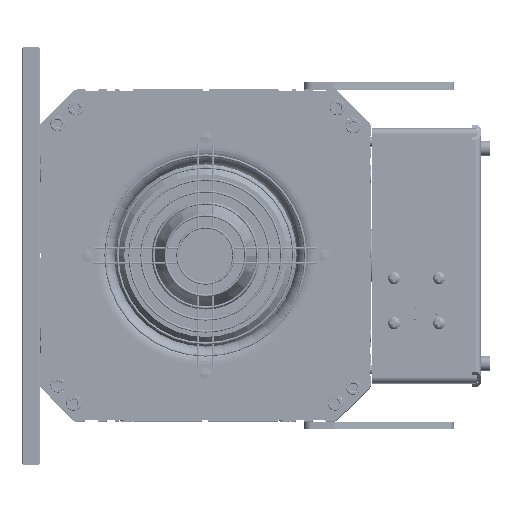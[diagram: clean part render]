
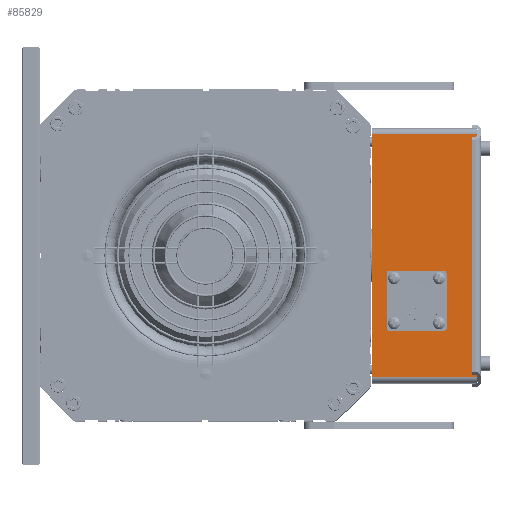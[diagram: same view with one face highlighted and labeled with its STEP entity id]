
A CAD part, top view. The second image highlights one B-rep face of the part: STEP entity #85829.
In plain terms, the highlighted planar face has unit normal (0, 0, 1) as drawn and (-1, 0, 0) by its records, which use the part's own axes.
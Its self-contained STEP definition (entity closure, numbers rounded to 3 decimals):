
#83832=DIRECTION('',(0.,-1.,0.));
#83833=VECTOR('',#83832,162.);
#83834=CARTESIAN_POINT('',(-80.,81.,0.));
#83835=LINE('',#83834,#83833);
#83907=DIRECTION('',(0.,0.,1.));
#83908=VECTOR('',#83907,70.);
#83909=CARTESIAN_POINT('',(-80.,-81.,0.));
#83910=LINE('',#83909,#83908);
#83915=CARTESIAN_POINT('',(-80.,-30.,30.));
#83916=DIRECTION('',(-1.,0.,0.));
#83917=DIRECTION('',(0.,0.,-1.));
#83918=AXIS2_PLACEMENT_3D('',#83915,#83916,#83917);
#83920=CARTESIAN_POINT('',(-80.,-30.,30.));
#83921=DIRECTION('',(-1.,0.,0.));
#83922=DIRECTION('',(0.,0.,1.));
#83923=AXIS2_PLACEMENT_3D('',#83920,#83921,#83922);
#83925=CARTESIAN_POINT('',(-80.,-45.,45.));
#83926=DIRECTION('',(-1.,0.,0.));
#83927=DIRECTION('',(0.,0.,-1.));
#83928=AXIS2_PLACEMENT_3D('',#83925,#83926,#83927);
#83930=CARTESIAN_POINT('',(-80.,-45.,45.));
#83931=DIRECTION('',(-1.,0.,0.));
#83932=DIRECTION('',(0.,0.,1.));
#83933=AXIS2_PLACEMENT_3D('',#83930,#83931,#83932);
#83935=CARTESIAN_POINT('',(-80.,-45.,15.));
#83936=DIRECTION('',(-1.,0.,0.));
#83937=DIRECTION('',(0.,0.,-1.));
#83938=AXIS2_PLACEMENT_3D('',#83935,#83936,#83937);
#83940=CARTESIAN_POINT('',(-80.,-45.,15.));
#83941=DIRECTION('',(-1.,0.,0.));
#83942=DIRECTION('',(0.,0.,1.));
#83943=AXIS2_PLACEMENT_3D('',#83940,#83941,#83942);
#83945=CARTESIAN_POINT('',(-80.,-15.,15.));
#83946=DIRECTION('',(-1.,0.,0.));
#83947=DIRECTION('',(0.,0.,-1.));
#83948=AXIS2_PLACEMENT_3D('',#83945,#83946,#83947);
#83950=CARTESIAN_POINT('',(-80.,-15.,15.));
#83951=DIRECTION('',(-1.,0.,0.));
#83952=DIRECTION('',(0.,0.,1.));
#83953=AXIS2_PLACEMENT_3D('',#83950,#83951,#83952);
#83955=CARTESIAN_POINT('',(-80.,-15.,45.));
#83956=DIRECTION('',(-1.,0.,0.));
#83957=DIRECTION('',(0.,0.,-1.));
#83958=AXIS2_PLACEMENT_3D('',#83955,#83956,#83957);
#83960=CARTESIAN_POINT('',(-80.,-15.,45.));
#83961=DIRECTION('',(-1.,0.,0.));
#83962=DIRECTION('',(0.,0.,1.));
#83963=AXIS2_PLACEMENT_3D('',#83960,#83961,#83962);
#83965=DIRECTION('',(0.,-1.,0.));
#83966=VECTOR('',#83965,162.);
#83967=CARTESIAN_POINT('',(-80.,81.,70.));
#83968=LINE('',#83967,#83966);
#85225=DIRECTION('',(0.,0.,-1.));
#85226=VECTOR('',#85225,70.);
#85227=CARTESIAN_POINT('',(-80.,81.,70.));
#85228=LINE('',#85227,#85226);
#85297=CARTESIAN_POINT('',(-80.,-30.,14.));
#85298=CARTESIAN_POINT('',(-80.,-30.,46.));
#85299=VERTEX_POINT('',#85297);
#85300=VERTEX_POINT('',#85298);
#85301=CARTESIAN_POINT('',(-80.,-45.,43.));
#85302=CARTESIAN_POINT('',(-80.,-45.,47.));
#85303=VERTEX_POINT('',#85301);
#85304=VERTEX_POINT('',#85302);
#85305=CARTESIAN_POINT('',(-80.,-45.,13.));
#85306=CARTESIAN_POINT('',(-80.,-45.,17.));
#85307=VERTEX_POINT('',#85305);
#85308=VERTEX_POINT('',#85306);
#85309=CARTESIAN_POINT('',(-80.,-15.,13.));
#85310=CARTESIAN_POINT('',(-80.,-15.,17.));
#85311=VERTEX_POINT('',#85309);
#85312=VERTEX_POINT('',#85310);
#85313=CARTESIAN_POINT('',(-80.,-15.,43.));
#85314=CARTESIAN_POINT('',(-80.,-15.,47.));
#85315=VERTEX_POINT('',#85313);
#85316=VERTEX_POINT('',#85314);
#85646=CARTESIAN_POINT('',(-80.,-81.,0.));
#85648=VERTEX_POINT('',#85646);
#85649=CARTESIAN_POINT('',(-80.,81.,0.));
#85651=VERTEX_POINT('',#85649);
#85678=CARTESIAN_POINT('',(-80.,81.,70.));
#85680=VERTEX_POINT('',#85678);
#85681=CARTESIAN_POINT('',(-80.,-81.,70.));
#85683=VERTEX_POINT('',#85681);
#85786=CARTESIAN_POINT('',(-80.,85.,0.));
#85787=DIRECTION('',(-1.,0.,0.));
#85788=DIRECTION('',(0.,-1.,0.));
#85789=AXIS2_PLACEMENT_3D('',#85786,#85787,#85788);
#85790=PLANE('',#85789);
#85792=ORIENTED_EDGE('',*,*,#85791,.F.);
#85794=ORIENTED_EDGE('',*,*,#85793,.T.);
#85795=ORIENTED_EDGE('',*,*,#85777,.F.);
#85796=ORIENTED_EDGE('',*,*,#85704,.F.);
#85797=EDGE_LOOP('',(#85792,#85794,#85795,#85796));
#85798=FACE_OUTER_BOUND('',#85797,.F.);
#85800=ORIENTED_EDGE('',*,*,#85799,.T.);
#85802=ORIENTED_EDGE('',*,*,#85801,.T.);
#85803=EDGE_LOOP('',(#85800,#85802));
#85804=FACE_BOUND('',#85803,.F.);
#85806=ORIENTED_EDGE('',*,*,#85805,.T.);
#85808=ORIENTED_EDGE('',*,*,#85807,.T.);
#85809=EDGE_LOOP('',(#85806,#85808));
#85810=FACE_BOUND('',#85809,.F.);
#85812=ORIENTED_EDGE('',*,*,#85811,.T.);
#85814=ORIENTED_EDGE('',*,*,#85813,.T.);
#85815=EDGE_LOOP('',(#85812,#85814));
#85816=FACE_BOUND('',#85815,.F.);
#85818=ORIENTED_EDGE('',*,*,#85817,.T.);
#85820=ORIENTED_EDGE('',*,*,#85819,.T.);
#85821=EDGE_LOOP('',(#85818,#85820));
#85822=FACE_BOUND('',#85821,.F.);
#85824=ORIENTED_EDGE('',*,*,#85823,.T.);
#85826=ORIENTED_EDGE('',*,*,#85825,.T.);
#85827=EDGE_LOOP('',(#85824,#85826));
#85828=FACE_BOUND('',#85827,.F.);
#85829=ADVANCED_FACE('',(#85798,#85804,#85810,#85816,#85822,#85828),#85790,.T.);
#83919=CIRCLE('',#83918,16.);
#83924=CIRCLE('',#83923,16.);
#83929=CIRCLE('',#83928,2.);
#83934=CIRCLE('',#83933,2.);
#83939=CIRCLE('',#83938,2.);
#83944=CIRCLE('',#83943,2.);
#83949=CIRCLE('',#83948,2.);
#83954=CIRCLE('',#83953,2.);
#83959=CIRCLE('',#83958,2.);
#83964=CIRCLE('',#83963,2.);
#85704=EDGE_CURVE('',#85651,#85648,#83835,.T.);
#85777=EDGE_CURVE('',#85648,#85683,#83910,.T.);
#85791=EDGE_CURVE('',#85680,#85651,#85228,.T.);
#85793=EDGE_CURVE('',#85680,#85683,#83968,.T.);
#85799=EDGE_CURVE('',#85303,#85304,#83929,.T.);
#85801=EDGE_CURVE('',#85304,#85303,#83934,.T.);
#85805=EDGE_CURVE('',#85307,#85308,#83939,.T.);
#85807=EDGE_CURVE('',#85308,#85307,#83944,.T.);
#85811=EDGE_CURVE('',#85311,#85312,#83949,.T.);
#85813=EDGE_CURVE('',#85312,#85311,#83954,.T.);
#85817=EDGE_CURVE('',#85315,#85316,#83959,.T.);
#85819=EDGE_CURVE('',#85316,#85315,#83964,.T.);
#85823=EDGE_CURVE('',#85299,#85300,#83919,.T.);
#85825=EDGE_CURVE('',#85300,#85299,#83924,.T.);
